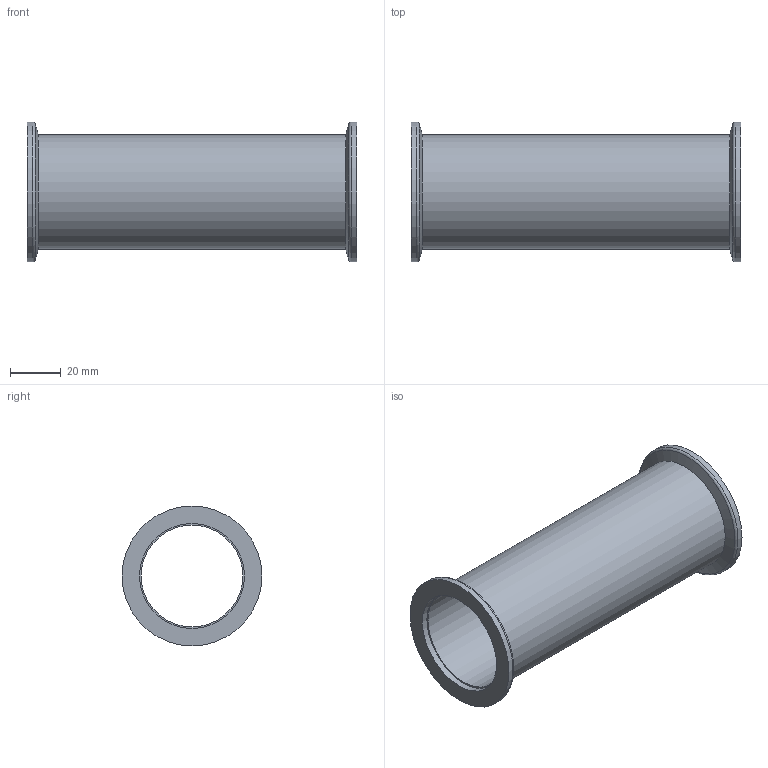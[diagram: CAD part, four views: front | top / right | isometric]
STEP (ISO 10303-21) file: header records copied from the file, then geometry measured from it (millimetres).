
FILE_DESCRIPTION(/* description */ (''),/* implementation_level */ '2;1');
FILE_NAME(/* name */ '18482.prt.step',/* time_stamp */ '2016-01-30T15:06:24+08:00',/* author */ (''),/* organization */ (''),/* preprocessor_version */ 'ST-DEVELOPER v14',/* originating_system */ 'SIEMENS PLM Software NX 8.0',/* authorisation */ '');
FILE_SCHEMA (('AUTOMOTIVE_DESIGN { 1 0 10303 214 3 1 1 1 }'));
Length unit declared in the file: millimetre
Products named in the file (1): 18482
Bounding box: 130 x 55.18 x 55.18 mm (x, y, z)
Volume: 48903.9 mm3; surface area: 38488.4 mm2
Topology: 1 solids, 1 shells, 14 faces, 24 edges, 14 vertices
Faces by surface type: cylinder 6, plane 4, torus 2, cone 2
Full cylindrical faces by diameter (mm): 40.18 x1, 41.38 x2, 45.18 x1, 55.18 x2
Entity records: 312 total; most frequent: DIRECTION 58, CARTESIAN_POINT 43, AXIS2_PLACEMENT_3D 29, FACE_BOUND 28, EDGE_LOOP 28, ORIENTED_EDGE 28, ADVANCED_FACE 14, VERTEX_POINT 14
